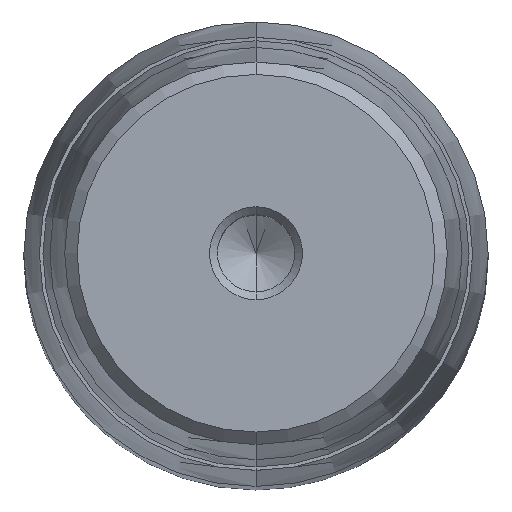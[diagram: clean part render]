
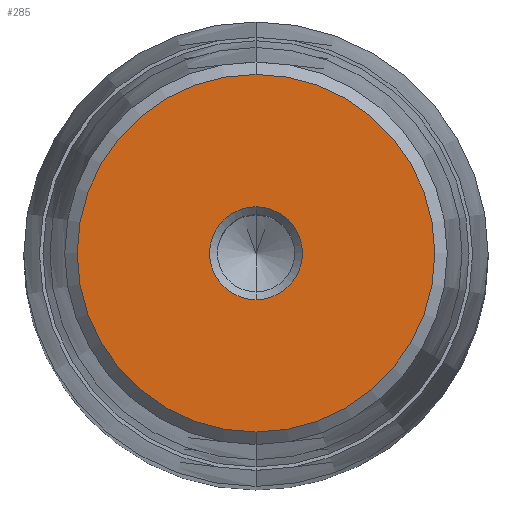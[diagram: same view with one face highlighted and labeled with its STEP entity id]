
A CAD part, top view. The second image highlights one B-rep face of the part: STEP entity #285.
In plain terms, the highlighted planar face has unit normal (0, 0, 1).
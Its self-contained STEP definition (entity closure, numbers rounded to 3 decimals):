
#164=CARTESIAN_POINT('Axis2P3D Location',(0.,0.,48.)) ;
#168=CARTESIAN_POINT('Vertex',(4.,0.,48.)) ;
#170=CARTESIAN_POINT('Vertex',(0.,-4.,48.)) ;
#173=CARTESIAN_POINT('Axis2P3D Location',(0.,0.,48.)) ;
#177=CARTESIAN_POINT('Vertex',(0.,4.,48.)) ;
#228=CARTESIAN_POINT('Axis2P3D Location',(0.,4.,48.)) ;
#233=CARTESIAN_POINT('Axis2P3D Location',(0.,0.,48.)) ;
#237=CARTESIAN_POINT('Vertex',(0.,15.4,48.)) ;
#239=CARTESIAN_POINT('Vertex',(15.4,0.,48.)) ;
#242=CARTESIAN_POINT('Axis2P3D Location',(0.,0.,48.)) ;
#246=CARTESIAN_POINT('Vertex',(-15.4,0.,48.)) ;
#249=CARTESIAN_POINT('Axis2P3D Location',(0.,0.,48.)) ;
#253=CARTESIAN_POINT('Vertex',(0.,-15.4,48.)) ;
#256=CARTESIAN_POINT('Axis2P3D Location',(0.,0.,48.)) ;
#267=CARTESIAN_POINT('Axis2P3D Location',(0.,0.,48.)) ;
#271=CARTESIAN_POINT('Vertex',(-4.,0.,48.)) ;
#274=CARTESIAN_POINT('Axis2P3D Location',(0.,0.,48.)) ;
#165=DIRECTION('Axis2P3D Direction',(-0.,0.,1.)) ;
#174=DIRECTION('Axis2P3D Direction',(-0.,0.,1.)) ;
#229=DIRECTION('Axis2P3D Direction',(0.,0.,-1.)) ;
#230=DIRECTION('Axis2P3D XDirection',(0.,1.,0.)) ;
#234=DIRECTION('Axis2P3D Direction',(0.,0.,-1.)) ;
#243=DIRECTION('Axis2P3D Direction',(0.,0.,-1.)) ;
#250=DIRECTION('Axis2P3D Direction',(0.,0.,-1.)) ;
#257=DIRECTION('Axis2P3D Direction',(0.,0.,-1.)) ;
#268=DIRECTION('Axis2P3D Direction',(0.,0.,-1.)) ;
#275=DIRECTION('Axis2P3D Direction',(0.,0.,-1.)) ;
#166=AXIS2_PLACEMENT_3D('Circle Axis2P3D',#164,#165,$) ;
#175=AXIS2_PLACEMENT_3D('Circle Axis2P3D',#173,#174,$) ;
#231=AXIS2_PLACEMENT_3D('Plane Axis2P3D',#228,#229,#230) ;
#235=AXIS2_PLACEMENT_3D('Circle Axis2P3D',#233,#234,$) ;
#244=AXIS2_PLACEMENT_3D('Circle Axis2P3D',#242,#243,$) ;
#251=AXIS2_PLACEMENT_3D('Circle Axis2P3D',#249,#250,$) ;
#258=AXIS2_PLACEMENT_3D('Circle Axis2P3D',#256,#257,$) ;
#269=AXIS2_PLACEMENT_3D('Circle Axis2P3D',#267,#268,$) ;
#276=AXIS2_PLACEMENT_3D('Circle Axis2P3D',#274,#275,$) ;
#262=ORIENTED_EDGE('',*,*,#241,.F.) ;
#263=ORIENTED_EDGE('',*,*,#248,.F.) ;
#264=ORIENTED_EDGE('',*,*,#255,.F.) ;
#265=ORIENTED_EDGE('',*,*,#260,.F.) ;
#280=ORIENTED_EDGE('',*,*,#172,.T.) ;
#281=ORIENTED_EDGE('',*,*,#273,.T.) ;
#282=ORIENTED_EDGE('',*,*,#278,.T.) ;
#283=ORIENTED_EDGE('',*,*,#179,.T.) ;
#284=FACE_BOUND('',#279,.T.) ;
#285=ADVANCED_FACE('722-40x200x233',(#266,#284),#232,.F.) ;
#167=CIRCLE('generated circle',#166,4.) ;
#176=CIRCLE('generated circle',#175,4.) ;
#236=CIRCLE('generated circle',#235,15.4) ;
#245=CIRCLE('generated circle',#244,15.4) ;
#252=CIRCLE('generated circle',#251,15.4) ;
#259=CIRCLE('generated circle',#258,15.4) ;
#270=CIRCLE('generated circle',#269,4.) ;
#277=CIRCLE('generated circle',#276,4.) ;
#172=EDGE_CURVE('',#169,#171,#167,.F.) ;
#179=EDGE_CURVE('',#178,#169,#176,.F.) ;
#241=EDGE_CURVE('',#238,#240,#236,.T.) ;
#248=EDGE_CURVE('',#247,#238,#245,.T.) ;
#255=EDGE_CURVE('',#254,#247,#252,.T.) ;
#260=EDGE_CURVE('',#240,#254,#259,.T.) ;
#273=EDGE_CURVE('',#171,#272,#270,.T.) ;
#278=EDGE_CURVE('',#272,#178,#277,.T.) ;
#261=EDGE_LOOP('',(#262,#263,#264,#265)) ;
#279=EDGE_LOOP('',(#280,#281,#282,#283)) ;
#266=FACE_OUTER_BOUND('',#261,.T.) ;
#232=PLANE('Plane',#231) ;
#169=VERTEX_POINT('',#168) ;
#171=VERTEX_POINT('',#170) ;
#178=VERTEX_POINT('',#177) ;
#238=VERTEX_POINT('',#237) ;
#240=VERTEX_POINT('',#239) ;
#247=VERTEX_POINT('',#246) ;
#254=VERTEX_POINT('',#253) ;
#272=VERTEX_POINT('',#271) ;
